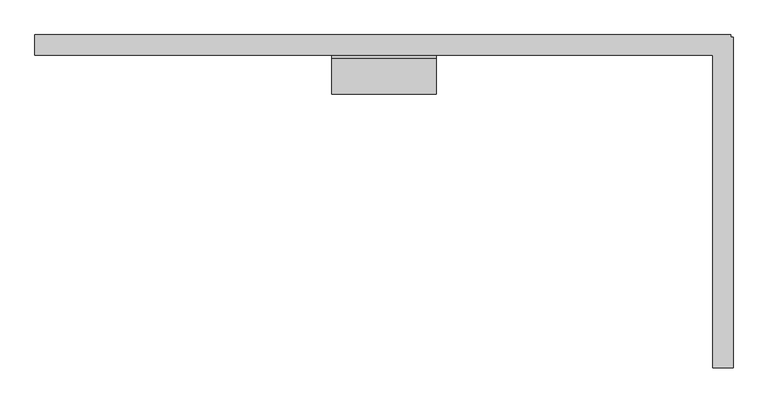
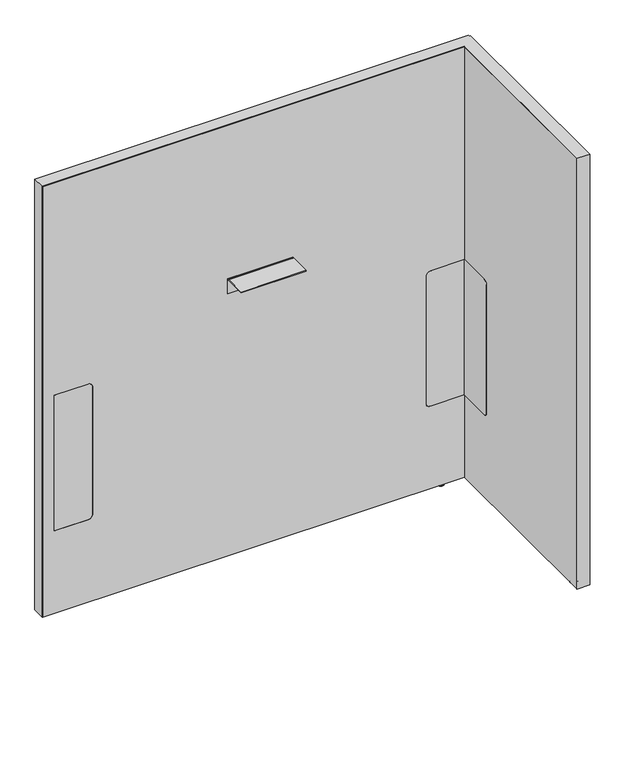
"""IFC4 building model written with IfcOpenShell, lengths in millimetres: furniture geometry, Steelcase - Answer Solution - Boundary Screen - L Return - Single Sided : 42H x 39W."""

from ifc_helpers import new_model, si_unit, point, frame, frame_2d, origin, place, context, project, spatial, polyline, circle_curve, ellipse_curve, trimmed, segment, composite_curve, outline, extrude, faceted_brep, source, transform, mapped, element, save
from ifc_brep_helpers import plane_surface, cylinder_surface, revolved_surface, advanced_brep


def furniture_4115a16e(model_context):
    return source(origin(), model_context, "Body", "SolidModel", [
        extrude(outline(composite_curve([segment(polyline([(-109.3501471, 549.6162029), (-29.0550397, 549.6162029), (-29.0550397, 213.7762137), (-109.3501471, 213.7762137)]), True, "CONTINUOUS"), segment(trimmed(circle_curve(frame_2d((-109.3501471, 223.9362137)), 10.16), [point((-109.3501471, 213.7762137))], [point((-119.5101471, 223.9362137))], False, "CARTESIAN"), True, "CONTINUOUS"), segment(polyline([(-119.5101471, 223.9362137), (-119.5101471, 539.4562029)]), True, "CONTINUOUS"), segment(trimmed(circle_curve(frame_2d((-109.3501471, 539.4562029)), 10.16), [point((-119.5101471, 539.4562029))], [point((-109.3501471, 549.6162029))], False, "CARTESIAN"), True, "CONTINUOUS")], self_intersect=False)), frame((1220.4191891, 0.0, 0.0), z_axis=(1.0, 0.0, 0.0), x_axis=(0.0, 1.0, 0.0)), (0.0, 0.0, 1.0), 0.6401544),
        advanced_brep(
        [(1235.2672074, -448.0136072, 0.0), (1242.2216144, -448.0136072, 0.0), (1228.3128003, -448.0136072, 0.0), (1243.6762685, -448.0136072, 1.2700001), (1226.8581463, -448.0136072, 1.2700001), (1243.6762685, -448.0136072, 2.9673238), (1226.8581463, -448.0136072, 2.9673238), (1244.6427877, -448.0136072, 2.9673238), (1225.891627, -448.0136072, 2.9673238), (1244.6427877, -448.0136072, 9.9059849), (1225.891627, -448.0136072, 9.9059849), (1235.2672074, -448.0136072, 9.9059849)],
        [
            (0, 1),
            (1, 2, circle_curve(frame((1235.2672074, -448.0136072, 0.0), z_axis=(0.0, 0.0, -1.0), x_axis=(1.0, 0.0, 0.0)), 6.9544071)),
            (2, 0),
            (2, 1, circle_curve(frame((1235.2672074, -448.0136072, 0.0), z_axis=(0.0, 0.0, -1.0), x_axis=(1.0, 0.0, 0.0)), 6.9544071)),
            (1, 3, circle_curve(frame((1242.3945484, -448.0136072, 1.2700001), z_axis=(0.0, -1.0, 0.0), x_axis=(0.0, 0.0, 1.0)), 1.2817201)),
            (3, 4, circle_curve(frame((1235.2672074, -448.0136072, 1.2700001), z_axis=(0.0, 0.0, -1.0), x_axis=(1.0, 0.0, 0.0)), 8.4090611)),
            (4, 2, circle_curve(frame((1228.1398663, -448.0136072, 1.2700001), z_axis=(0.0, -1.0, 0.0), x_axis=(0.0, 0.0, 1.0)), 1.2817201)),
            (4, 3, circle_curve(frame((1235.2672074, -448.0136072, 1.2700001), z_axis=(0.0, 0.0, -1.0), x_axis=(1.0, 0.0, 0.0)), 8.4090611)),
            (3, 5),
            (5, 6, circle_curve(frame((1235.2672074, -448.0136072, 2.9673238), z_axis=(0.0, 0.0, -1.0), x_axis=(1.0, 0.0, 0.0)), 8.4090611)),
            (6, 4),
            (6, 5, circle_curve(frame((1235.2672074, -448.0136072, 2.9673238), z_axis=(0.0, 0.0, -1.0), x_axis=(1.0, 0.0, 0.0)), 8.4090611)),
            (5, 7),
            (7, 8, circle_curve(frame((1235.2672074, -448.0136072, 2.9673238), z_axis=(0.0, 0.0, -1.0), x_axis=(1.0, 0.0, 0.0)), 9.3755804)),
            (8, 6),
            (8, 7, circle_curve(frame((1235.2672074, -448.0136072, 2.9673238), z_axis=(0.0, 0.0, -1.0), x_axis=(1.0, 0.0, 0.0)), 9.3755804)),
            (7, 9),
            (9, 10, circle_curve(frame((1235.2672074, -448.0136072, 9.9059849), z_axis=(0.0, 0.0, -1.0), x_axis=(1.0, 0.0, 0.0)), 9.3755804)),
            (10, 8),
            (10, 9, circle_curve(frame((1235.2672074, -448.0136072, 9.9059849), z_axis=(0.0, 0.0, -1.0), x_axis=(1.0, 0.0, 0.0)), 9.3755804)),
            (9, 11),
            (11, 10),
        ],
        [
            plane_surface(frame((1235.2672074, -448.0136072, 0.0), z_axis=(0.0, 0.0, -1.0), x_axis=(1.0, 0.0, 0.0))),
            revolved_surface(trimmed(ellipse_curve(frame((1242.3945484, -448.0136072, 1.2700001), z_axis=(0.0, 1.0, 0.0), x_axis=(0.0, 0.0, 1.0)), 1.2817201, 1.2817201), [point((1243.6762685, -448.0136072, 1.2700001))], [point((1242.2216144, -448.0136072, 0.0))], True, "CARTESIAN"), (1235.2672074, -448.0136072, 9.9059849), (0.0, 0.0, -1.0)),
            cylinder_surface(frame((1235.2672074, -448.0136072, 9.9059849), z_axis=(0.0, 0.0, -1.0), x_axis=(1.0, 0.0, 0.0)), 8.4090611),
            plane_surface(frame((1235.2672074, -448.0136072, 2.9673238), z_axis=(0.0, 0.0, -1.0), x_axis=(1.0, 0.0, 0.0))),
            cylinder_surface(frame((1235.2672074, -448.0136072, 9.9059849), z_axis=(0.0, 0.0, -1.0), x_axis=(1.0, 0.0, 0.0)), 9.3755804),
            plane_surface(frame((1235.2672074, -448.0136072, 9.9059849), z_axis=(0.0, 0.0, 1.0), x_axis=(1.0, 0.0, 0.0))),
        ],
        [
            (0, [[1, 2, 3]]),
            (0, [[-3, 4, -1]]),
            (1, [[-2, 5, 6, 7]]),
            (1, [[-4, -7, 8, -5]]),
            (2, [[-6, 9, 10, 11]]),
            (2, [[-8, -11, 12, -9]]),
            (3, [[-10, 13, 14, 15]]),
            (3, [[-12, -15, 16, -13]]),
            (4, [[-14, 17, 18, 19]]),
            (4, [[-16, -19, 20, -17]]),
            (5, [[-18, 21, 22]]),
            (5, [[-20, -22, -21]]),
        ],
    ),
        faceted_brep([(1246.8531179, 0.0, 1077.722), (1246.8531179, 0.0, 9.9059849), (1245.8621491, 0.0, 9.9059849), (1245.8621491, 0.0, 1076.742118), (230.8097779, 0.0, 1076.742118), (230.8097779, 0.0, 9.9059849), (229.8191891, 0.0, 9.9059849), (229.8191891, 0.0, 1077.722), (229.8191891, -29.6898332, 1077.722), (229.8191891, -29.6898332, 9.9059849), (230.8097779, -29.6898332, 9.9059849), (230.8097779, -29.6898332, 1076.742118), (1220.4191891, -29.6898332, 1076.742118), (1220.4191891, -29.6898332, 1077.722), (1245.8621491, -29.6898332, 1076.742118), (1245.8621491, -29.6898332, 9.9059849), (1246.8531179, -29.6898332, 9.9059849), (1246.8531179, -29.6898332, 1076.742118), (1246.8531179, -3.2625916, 1077.722), (1246.8531179, -3.2625916, 9.9059849), (1246.8531179, -4.252647, 9.9059849), (1246.8531179, -4.252647, 1076.742118), (1250.1152256, -3.2625916, 9.9059849), (1250.1152256, -4.252647, 9.9059849), (1245.8621491, -4.252647, 9.9059849), (1220.4191891, -4.252647, 9.9059849), (1220.4191891, -3.2625916, 9.9059849), (1245.8621491, -3.2625916, 9.9059849), (1220.4191891, -486.8898332, 1077.722), (1250.1152256, -486.8898332, 1077.722), (1250.1152256, -3.2625916, 1077.722), (1245.8621491, -3.2625916, 1076.742118), (1245.8621491, -4.252647, 1076.742118), (1220.4191891, -3.2625916, 1076.742118), (1220.4191891, -4.252647, 1076.742118), (1250.1152256, -4.252647, 1076.742118), (1250.1152256, -485.899196, 1076.742118), (1220.4191891, -485.899196, 1076.742118), (1220.4191891, -485.899196, 9.9059849), (1220.4191891, -486.8898332, 9.9059849), (1250.1152256, -486.8898332, 9.9059849), (1250.1152256, -485.899196, 9.9059849)], [[[0, 1, 2, 3, 4, 5, 6, 7]], [[8, 9, 10, 11, 12, 13]], [[14, 15, 16, 17]], [[1, 0, 18, 19]], [[17, 16, 20, 21]], [[2, 1, 19, 22, 23, 20, 16, 15, 24, 25, 26, 27]], [[7, 6, 9, 8]], [[0, 7, 8, 13, 28, 29, 30, 18]], [[3, 2, 27, 31]], [[15, 14, 32, 24]], [[4, 3, 31, 33, 34, 32, 14, 17, 21, 35, 36, 37, 12, 11]], [[5, 4, 11, 10]], [[6, 5, 10, 9]], [[26, 25, 34, 33]], [[37, 38, 39, 28, 13, 12]], [[29, 40, 41, 36, 35, 23, 22, 30]], [[27, 26, 33, 31]], [[30, 22, 19, 18]], [[34, 25, 24, 32]], [[23, 35, 21, 20]], [[38, 37, 36, 41]], [[39, 38, 41, 40]], [[28, 39, 40, 29]]]),
        extrude(outline(composite_curve([segment(polyline([(-86.8398151, 696.4680019), (-86.8398151, 698.5), (-34.9450855, 698.5)]), True, "CONTINUOUS"), segment(trimmed(circle_curve(frame_2d((-34.9450855, 693.2447477)), 5.2552523), [point((-34.9450855, 698.5))], [point((-29.6898332, 693.2447477))], False, "CARTESIAN"), True, "CONTINUOUS"), segment(polyline([(-29.6898332, 693.2447477), (-29.6898332, 660.4), (-31.7218162, 660.4), (-31.7218162, 693.0058743)]), True, "CONTINUOUS"), segment(trimmed(circle_curve(frame_2d((-35.1839438, 693.0058743)), 3.4621276), [point((-31.7218162, 693.0058743))], [point((-35.1839438, 696.4680019))], True, "CARTESIAN"), True, "CONTINUOUS"), segment(polyline([(-35.1839438, 696.4680019), (-86.8398151, 696.4680019)]), True, "CONTINUOUS")], self_intersect=False)), frame((663.7685899, 0.0, 0.0), z_axis=(1.0, 0.0, 0.0), x_axis=(0.0, 1.0, 0.0)), (0.0, 0.0, 1.0), 152.4000969),
        advanced_brep(
        [(1172.9246853, -23.7588726, 9.9059849), (1172.9246853, -5.9309607, 9.9059849), (1172.9246853, -14.8449166, 9.9059849), (1172.9246853, -23.7588726, 2.9673238), (1172.9246853, -5.9309607, 2.9673238), (1172.9246853, -22.7915354, 2.9673238), (1172.9246853, -6.8982978, 2.9673238), (1172.9246853, -22.7915354, 1.6569081), (1172.9246853, -6.8982978, 1.6569081), (1172.9246853, -21.1346274, 0.0), (1172.9246853, -8.5552059, 0.0), (1172.9246853, -14.8449166, 0.0)],
        [
            (0, 1, circle_curve(frame((1172.9246853, -14.8449166, 9.9059849), z_axis=(0.0, 0.0, 1.0), x_axis=(0.0, 1.0, 0.0)), 8.913956)),
            (1, 2),
            (2, 0),
            (1, 0, circle_curve(frame((1172.9246853, -14.8449166, 9.9059849), z_axis=(0.0, 0.0, 1.0), x_axis=(0.0, 1.0, 0.0)), 8.913956)),
            (3, 4, circle_curve(frame((1172.9246853, -14.8449166, 2.9673238), z_axis=(0.0, 0.0, 1.0), x_axis=(0.0, 1.0, 0.0)), 8.913956)),
            (4, 1),
            (0, 3),
            (4, 3, circle_curve(frame((1172.9246853, -14.8449166, 2.9673238), z_axis=(0.0, 0.0, 1.0), x_axis=(0.0, 1.0, 0.0)), 8.913956)),
            (5, 6, circle_curve(frame((1172.9246853, -14.8449166, 2.9673238), z_axis=(0.0, 0.0, 1.0), x_axis=(0.0, 1.0, 0.0)), 7.9466188)),
            (6, 4),
            (3, 5),
            (6, 5, circle_curve(frame((1172.9246853, -14.8449166, 2.9673238), z_axis=(0.0, 0.0, 1.0), x_axis=(0.0, 1.0, 0.0)), 7.9466188)),
            (7, 8, circle_curve(frame((1172.9246853, -14.8449166, 1.6569081), z_axis=(0.0, 0.0, 1.0), x_axis=(0.0, 1.0, 0.0)), 7.9466188)),
            (8, 6),
            (5, 7),
            (8, 7, circle_curve(frame((1172.9246853, -14.8449166, 1.6569081), z_axis=(0.0, 0.0, 1.0), x_axis=(0.0, 1.0, 0.0)), 7.9466188)),
            (9, 10, circle_curve(frame((1172.9246853, -14.8449166, 0.0), z_axis=(0.0, 0.0, 1.0), x_axis=(0.0, 1.0, 0.0)), 6.2897107)),
            (10, 8, circle_curve(frame((1172.9246853, -8.5552059, 1.6569081), z_axis=(1.0, 0.0, 0.0), x_axis=(0.0, 1.0, 0.0)), 1.6569081)),
            (7, 9, circle_curve(frame((1172.9246853, -21.1346274, 1.6569081), z_axis=(1.0, 0.0, 0.0), x_axis=(0.0, -1.0, 0.0)), 1.6569081)),
            (10, 9, circle_curve(frame((1172.9246853, -14.8449166, 0.0), z_axis=(0.0, 0.0, 1.0), x_axis=(0.0, 1.0, 0.0)), 6.2897107)),
            (11, 10),
            (9, 11),
        ],
        [
            plane_surface(frame((1172.9246853, -14.8449166, 9.9059849), z_axis=(0.0, 0.0, 1.0), x_axis=(0.0, 1.0, 0.0))),
            cylinder_surface(frame((1172.9246853, -14.8449166, 9.9059849), z_axis=(0.0, 0.0, -1.0), x_axis=(0.0, 1.0, 0.0)), 8.913956),
            plane_surface(frame((1172.9246853, -14.8449166, 2.9673238), z_axis=(0.0, 0.0, -1.0), x_axis=(0.0, 1.0, 0.0))),
            cylinder_surface(frame((1172.9246853, -14.8449166, 9.9059849), z_axis=(0.0, 0.0, -1.0), x_axis=(0.0, 1.0, 0.0)), 7.9466188),
            revolved_surface(trimmed(ellipse_curve(frame((1172.9246853, -8.5552059, 1.6569081), z_axis=(-1.0, 0.0, 0.0), x_axis=(0.0, 1.0, 0.0)), 1.6569081, 1.6569081), [point((1172.9246853, -6.8982978, 1.6569081))], [point((1172.9246853, -8.5552059, 0.0))], True, "CARTESIAN"), (1172.9246853, -14.8449166, 9.9059849), (0.0, 0.0, -1.0)),
            plane_surface(frame((1172.9246853, -14.8449166, 0.0), z_axis=(0.0, 0.0, -1.0), x_axis=(0.0, 1.0, 0.0))),
        ],
        [
            (0, [[1, 2, 3]]),
            (0, [[4, -3, -2]]),
            (1, [[5, 6, -1, 7]]),
            (1, [[8, -7, -4, -6]]),
            (2, [[9, 10, -5, 11]]),
            (2, [[12, -11, -8, -10]]),
            (3, [[13, 14, -9, 15]]),
            (3, [[16, -15, -12, -14]]),
            (4, [[17, 18, -13, 19]]),
            (4, [[20, -19, -16, -18]]),
            (5, [[21, -17, 22]]),
            (5, [[-22, -20, -21]]),
        ],
    ),
        advanced_brep(
        [(230.8097779, 0.0, 1076.742118), (1245.8621491, 0.0, 1076.742118), (1245.8621491, 0.0, 9.9059849), (230.8097779, 0.0, 9.9059849), (347.9483813, -29.0550397, 539.4562029), (337.7883813, -29.0550397, 549.6162029), (258.1344836, -29.0550397, 549.6162029), (258.1344836, -29.0550397, 213.7762137), (337.7883813, -29.0550397, 213.7762137), (347.9483813, -29.0550397, 223.9362137), (1221.0593435, -29.0550397, 213.7762137), (1221.0593435, -29.0550397, 549.6162029), (1140.5109268, -29.0550397, 549.6162029), (1130.3509268, -29.0550397, 539.4562029), (1130.3509268, -29.0550397, 223.9362137), (1140.5109268, -29.0550397, 213.7762137), (230.8097779, -29.6898332, 1076.742118), (230.8097779, -29.6898332, 9.9059849), (1220.4191891, -29.6898332, 9.9059849), (1220.4191891, -29.6898332, 213.7762137), (1140.5109268, -29.6898332, 213.7762137), (1130.3509268, -29.6898332, 223.9362137), (1130.3509268, -29.6898332, 539.4562029), (1140.5109268, -29.6898332, 549.6162029), (1220.4191891, -29.6898332, 549.6162029), (1220.4191891, -29.6898332, 1076.742118), (337.7883813, -29.6898332, 549.6162029), (347.9483813, -29.6898332, 539.4562029), (347.9483813, -29.6898332, 223.9362137), (337.7883813, -29.6898332, 213.7762137), (258.1344836, -29.6898332, 213.7762137), (258.1344836, -29.6898332, 549.6162029), (1245.8621491, -4.252647, 9.9059849), (1250.1152256, -4.252647, 9.9059849), (1250.1152256, -485.899196, 9.9059849), (1220.4191891, -485.899196, 9.9059849), (1245.8621491, -4.252647, 1076.742118), (1220.4191891, -485.899196, 1076.742118), (1250.1152256, -485.899196, 1076.742118), (1250.1152256, -4.252647, 1076.742118), (1221.0593435, -109.3501471, 549.6162029), (1220.4191891, -109.3501471, 549.6162029), (1221.0593435, -109.3501471, 213.7762137), (1221.0593435, -119.5101471, 223.9362137), (1221.0593435, -119.5101471, 539.4562029), (1220.4191891, -109.3501471, 213.7762137), (1220.4191891, -119.5101471, 539.4562029), (1220.4191891, -119.5101471, 223.9362137)],
        [
            (0, 1),
            (1, 2),
            (2, 3),
            (3, 0),
            (4, 5, circle_curve(frame((337.7883813, -29.0550397, 539.4562029), z_axis=(0.0, -1.0, 0.0), x_axis=(0.0, 0.0, 1.0)), 10.16)),
            (5, 6),
            (6, 7),
            (7, 8),
            (8, 9, circle_curve(frame((337.7883813, -29.0550397, 223.9362137), z_axis=(0.0, -1.0, 0.0), x_axis=(0.0, 0.0, 1.0)), 10.16)),
            (9, 4),
            (10, 11),
            (11, 12),
            (12, 13, circle_curve(frame((1140.5109268, -29.0550397, 539.4562029), z_axis=(0.0, -1.0, 0.0), x_axis=(0.0, 0.0, 1.0)), 10.16)),
            (13, 14),
            (14, 15, circle_curve(frame((1140.5109268, -29.0550397, 223.9362137), z_axis=(0.0, -1.0, 0.0), x_axis=(0.0, 0.0, 1.0)), 10.16)),
            (15, 10),
            (16, 17),
            (17, 18),
            (18, 19),
            (19, 20),
            (20, 21, circle_curve(frame((1140.5109268, -29.6898332, 223.9362137), z_axis=(0.0, 1.0, 0.0), x_axis=(0.0, 0.0, 1.0)), 10.16)),
            (21, 22),
            (22, 23, circle_curve(frame((1140.5109268, -29.6898332, 539.4562029), z_axis=(0.0, 1.0, 0.0), x_axis=(0.0, 0.0, 1.0)), 10.16)),
            (23, 24),
            (24, 25),
            (25, 16),
            (26, 27, circle_curve(frame((337.7883813, -29.6898332, 539.4562029), z_axis=(0.0, 1.0, 0.0), x_axis=(0.0, 0.0, 1.0)), 10.16)),
            (27, 28),
            (28, 29, circle_curve(frame((337.7883813, -29.6898332, 223.9362137), z_axis=(0.0, 1.0, 0.0), x_axis=(0.0, 0.0, 1.0)), 10.16)),
            (29, 30),
            (30, 31),
            (31, 26),
            (16, 0),
            (3, 17),
            (2, 32),
            (32, 33),
            (33, 34),
            (34, 35),
            (35, 18),
            (1, 36),
            (36, 32),
            (25, 37),
            (37, 38),
            (38, 39),
            (39, 36),
            (26, 5),
            (4, 27),
            (9, 28),
            (8, 29),
            (7, 30),
            (6, 31),
            (11, 40),
            (40, 41),
            (41, 24),
            (23, 12),
            (42, 43, circle_curve(frame((1221.0593435, -109.3501471, 223.9362137), z_axis=(-1.0, 0.0, 0.0), x_axis=(0.0, 1.0, 0.0)), 10.16)),
            (43, 44),
            (44, 40, circle_curve(frame((1221.0593435, -109.3501471, 539.4562029), z_axis=(-1.0, 0.0, 0.0), x_axis=(0.0, 1.0, 0.0)), 10.16)),
            (10, 42),
            (15, 20),
            (19, 45),
            (45, 42),
            (14, 21),
            (13, 22),
            (35, 37),
            (41, 46, circle_curve(frame((1220.4191891, -109.3501471, 539.4562029), z_axis=(1.0, 0.0, 0.0), x_axis=(0.0, 1.0, 0.0)), 10.16)),
            (46, 47),
            (47, 45, circle_curve(frame((1220.4191891, -109.3501471, 223.9362137), z_axis=(1.0, 0.0, 0.0), x_axis=(0.0, 1.0, 0.0)), 10.16)),
            (38, 34),
            (33, 39),
            (44, 46),
            (43, 47),
        ],
        [
            plane_surface(frame((347.9483813, 0.0, 549.6162029), z_axis=(0.0, 1.0, 0.0), x_axis=(0.0, 0.0, -1.0))),
            plane_surface(frame((347.9483813, -29.0550397, 549.6162029), z_axis=(0.0, -1.0, 0.0), x_axis=(0.0, 0.0, 1.0))),
            plane_surface(frame((1245.8621491, -29.6898332, 1076.742118), z_axis=(0.0, -1.0, 0.0), x_axis=(-1.0, 0.0, 0.0))),
            plane_surface(frame((230.8097779, 0.0, 9.9059849), z_axis=(-1.0, 0.0, 0.0), x_axis=(0.0, -1.0, 0.0))),
            plane_surface(frame((1245.8621491, 0.0, 9.9059849), z_axis=(0.0, 0.0, -1.0), x_axis=(0.0, -1.0, 0.0))),
            plane_surface(frame((1245.8621491, 0.0, 1076.742118), z_axis=(1.0, 0.0, 0.0), x_axis=(0.0, -1.0, 0.0))),
            plane_surface(frame((230.8097779, 0.0, 1076.742118), z_axis=(0.0, 0.0, 1.0), x_axis=(0.0, -1.0, 0.0))),
            revolved_surface(polyline([(337.7883813, -29.6898332, 549.6162029), (337.7883813, -29.0550397, 549.6162029)]), (337.7883813, -29.6898332, 539.4562029), (0.0, -1.0, 0.0)),
            plane_surface(frame((347.9483813, 0.0, 223.9362137), z_axis=(-1.0, 0.0, 0.0), x_axis=(0.0, -1.0, 0.0))),
            revolved_surface(polyline([(337.7883813, -29.6898332, 234.0962137), (337.7883813, -29.0550397, 234.0962137)]), (337.7883813, -29.6898332, 223.9362137), (0.0, -1.0, 0.0)),
            plane_surface(frame((258.1344836, 0.0, 213.7762137), z_axis=(0.0, 0.0, 1.0), x_axis=(0.0, -1.0, 0.0))),
            plane_surface(frame((258.1344836, 0.0, 549.6162029), z_axis=(1.0, 0.0, 0.0), x_axis=(0.0, -1.0, 0.0))),
            plane_surface(frame((337.7883813, 0.0, 549.6162029), z_axis=(0.0, 0.0, -1.0), x_axis=(0.0, -1.0, 0.0))),
            plane_surface(frame((1221.0593435, 0.0, 549.6162029), z_axis=(0.0, 0.0, -1.0), x_axis=(0.0, -1.0, 0.0))),
            plane_surface(frame((1221.0593435, 0.0, 213.7762137), z_axis=(-1.0, 0.0, 0.0), x_axis=(0.0, -1.0, 0.0))),
            plane_surface(frame((1140.5109268, 0.0, 213.7762137), z_axis=(0.0, 0.0, 1.0), x_axis=(0.0, -1.0, 0.0))),
            revolved_surface(polyline([(1140.5109268, -29.6898332, 234.0962137), (1140.5109268, -29.0550397, 234.0962137)]), (1140.5109268, -29.6898332, 223.9362137), (0.0, -1.0, 0.0)),
            plane_surface(frame((1130.3509268, 0.0, 539.4562029), z_axis=(1.0, 0.0, 0.0), x_axis=(0.0, -1.0, 0.0))),
            revolved_surface(polyline([(1140.5109268, -29.6898332, 549.6162029), (1140.5109268, -29.0550397, 549.6162029)]), (1140.5109268, -29.6898332, 539.4562029), (0.0, -1.0, 0.0)),
            plane_surface(frame((1220.4191891, -485.899196, 1076.742118), z_axis=(-1.0, 0.0, 0.0), x_axis=(0.0, 0.0, 1.0))),
            plane_surface(frame((1250.1152256, -485.899196, 1076.742118), z_axis=(1.0, 0.0, 0.0), x_axis=(0.0, 0.0, -1.0))),
            plane_surface(frame((1250.1152256, -4.252647, 9.9059849), z_axis=(0.0, 1.0, 0.0), x_axis=(-1.0, 0.0, 0.0))),
            plane_surface(frame((1250.1152256, -485.899196, 1076.742118), z_axis=(0.0, -1.0, 0.0), x_axis=(-1.0, 0.0, 0.0))),
            revolved_surface(polyline([(1220.4191891, -99.1901471, 539.4562029), (1221.0593435, -99.1901471, 539.4562029)]), (-340.6902705, -109.3501471, 539.4562029), (-1.0, 0.0, 0.0)),
            plane_surface(frame((1250.1152256, -119.5101471, 223.9362137), z_axis=(0.0, 1.0, 0.0), x_axis=(-1.0, 0.0, 0.0))),
            revolved_surface(polyline([(1220.4191891, -99.1901471, 223.9362137), (1221.0593435, -99.1901471, 223.9362137)]), (-340.6902705, -109.3501471, 223.9362137), (-1.0, 0.0, 0.0)),
        ],
        [
            (0, [[1, 2, 3, 4]]),
            (1, [[5, 6, 7, 8, 9, 10]]),
            (1, [[11, 12, 13, 14, 15, 16]]),
            (2, [[17, 18, 19, 20, 21, 22, 23, 24, 25, 26], [27, 28, 29, 30, 31, 32]]),
            (3, [[-17, 33, -4, 34]]),
            (4, [[-3, 35, 36, 37, 38, 39, -18, -34]]),
            (5, [[-2, 40, 41, -35]]),
            (6, [[-1, -33, -26, 42, 43, 44, 45, -40]]),
            (7, [[-27, 46, -5, 47]]),
            (8, [[-28, -47, -10, 48]]),
            (9, [[-29, -48, -9, 49]]),
            (10, [[-30, -49, -8, 50]]),
            (11, [[-31, -50, -7, 51]]),
            (12, [[-32, -51, -6, -46]]),
            (13, [[52, 53, 54, -24, 55, -12]]),
            (14, [[56, 57, 58, -52, -11, 59]]),
            (15, [[-59, -16, 60, -20, 61, 62]]),
            (16, [[-21, -60, -15, 63]]),
            (17, [[-22, -63, -14, 64]]),
            (18, [[-23, -64, -13, -55]]),
            (19, [[65, -42, -25, -54, 66, 67, 68, -61, -19, -39]]),
            (20, [[69, -37, 70, -44]]),
            (21, [[-70, -36, -41, -45]]),
            (22, [[-65, -38, -69, -43]]),
            (23, [[-66, -53, -58, 71]]),
            (24, [[-67, -71, -57, 72]]),
            (25, [[-68, -72, -56, -62]]),
        ],
    ),
        extrude(outline(composite_curve([segment(polyline([(549.6162029, 337.7883813), (549.6162029, 258.1344836), (213.7762137, 258.1344836), (213.7762137, 337.7883813)]), True, "CONTINUOUS"), segment(trimmed(circle_curve(frame_2d((223.9362137, 337.7883813)), 10.16), [point((213.7762137, 337.7883813))], [point((223.9362137, 347.9483813))], False, "CARTESIAN"), True, "CONTINUOUS"), segment(polyline([(223.9362137, 347.9483813), (539.4562029, 347.9483813)]), True, "CONTINUOUS"), segment(trimmed(circle_curve(frame_2d((539.4562029, 337.7883813)), 10.16), [point((539.4562029, 347.9483813))], [point((549.6162029, 337.7883813))], False, "CARTESIAN"), True, "CONTINUOUS")], self_intersect=False)), frame((0.0, -29.6898332, 0.0), z_axis=(0.0, 1.0, 0.0), x_axis=(0.0, 0.0, 1.0)), (0.0, 0.0, 1.0), 0.6347935),
        extrude(outline(composite_curve([segment(trimmed(circle_curve(frame_2d((539.4562029, 1140.5109268)), 10.16), [point((549.6162029, 1140.5109268))], [point((539.4562029, 1130.3509268))], False, "CARTESIAN"), True, "CONTINUOUS"), segment(polyline([(539.4562029, 1130.3509268), (223.9362137, 1130.3509268)]), True, "CONTINUOUS"), segment(trimmed(circle_curve(frame_2d((223.9362137, 1140.5109268)), 10.16), [point((223.9362137, 1130.3509268))], [point((213.7762137, 1140.5109268))], False, "CARTESIAN"), True, "CONTINUOUS"), segment(polyline([(213.7762137, 1140.5109268), (213.7762137, 1220.4191891), (549.6162029, 1220.4191891), (549.6162029, 1140.5109268)]), True, "CONTINUOUS")], self_intersect=False)), frame((0.0, -29.6898332, 0.0), z_axis=(0.0, 1.0, 0.0), x_axis=(0.0, 0.0, 1.0)), (0.0, 0.0, 1.0), 0.6347935),
    ])


if __name__ == "__main__":
    model = new_model("IFC4")
    model_context = context("Model", 3, world=origin())
    ifc_project = project(units=[si_unit("LENGTHUNIT", "METRE", prefix="MILLI")], contexts=[model_context])
    site = spatial("IfcSite", under=ifc_project)
    building = spatial("IfcBuilding", under=site)
    placement = place(None, origin())
    furniture_shape = furniture_4115a16e(model_context)
    element("IfcFurniture", 1, ObjectType="Steelcase - Answer Solution - Boundary Screen - L Return - Single Sided : 42H x 39W", at=placement, inside=building, context=model_context, shape_type="MappedRepresentation", body=[
        mapped(furniture_shape, transform((0.0, 0.0, 0.0), x_axis=(1.0, 0.0, 0.0), y_axis=(0.0, 1.0, 0.0), z_axis=(0.0, 0.0, 1.0))),
    ])
    save(model, "model.ifc")
